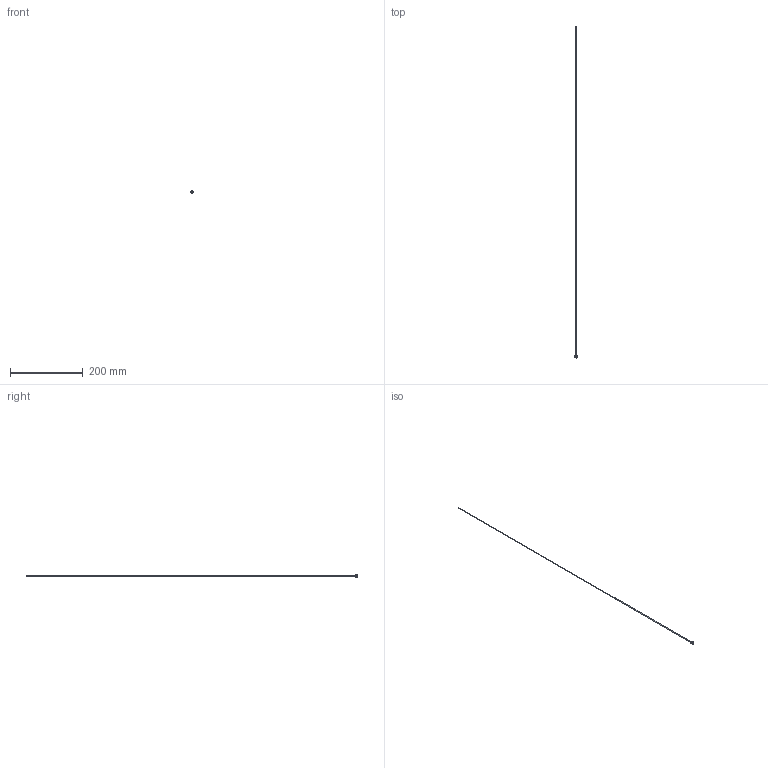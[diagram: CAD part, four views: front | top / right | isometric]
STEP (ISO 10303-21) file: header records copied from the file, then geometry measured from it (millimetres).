
FILE_DESCRIPTION(/* description */ (''),/* implementation_level */ '2;1');
FILE_NAME(/* name */ 'C:/Users/drich/Desktop/PT16-072-36 v2.step',/* time_stamp */ '2019-12-27T15:13:59-06:00',/* author */ (''),/* organization */ (''),/* preprocessor_version */ 'ST-DEVELOPER v18',/* originating_system */ 'Autodesk Translation Framework v8.12.0.6',/* authorisation */ '');
FILE_SCHEMA (('AUTOMOTIVE_DESIGN { 1 0 10303 214 3 1 1 }'));
Length unit declared in the file: inch
Products named in the file (1): PT16-072-36
Bounding box: 7.62 x 914.4 x 7.62 mm (x, y, z)
Volume: 966.1 mm3; surface area: 9858.1 mm2
Topology: 1 solids, 1 shells, 19 faces, 48 edges, 34 vertices
Faces by surface type: plane 11, cylinder 4, torus 2, cone 2
Full cylindrical faces by diameter (mm): 1.524 x1, 1.829 x1, 4.724 x1, 7.616 x1
Entity records: 633 total; most frequent: DIRECTION 112, CARTESIAN_POINT 102, ORIENTED_EDGE 96, EDGE_CURVE 48, AXIS2_PLACEMENT_3D 44, VERTEX_POINT 34, CIRCLE 24, EDGE_LOOP 24
